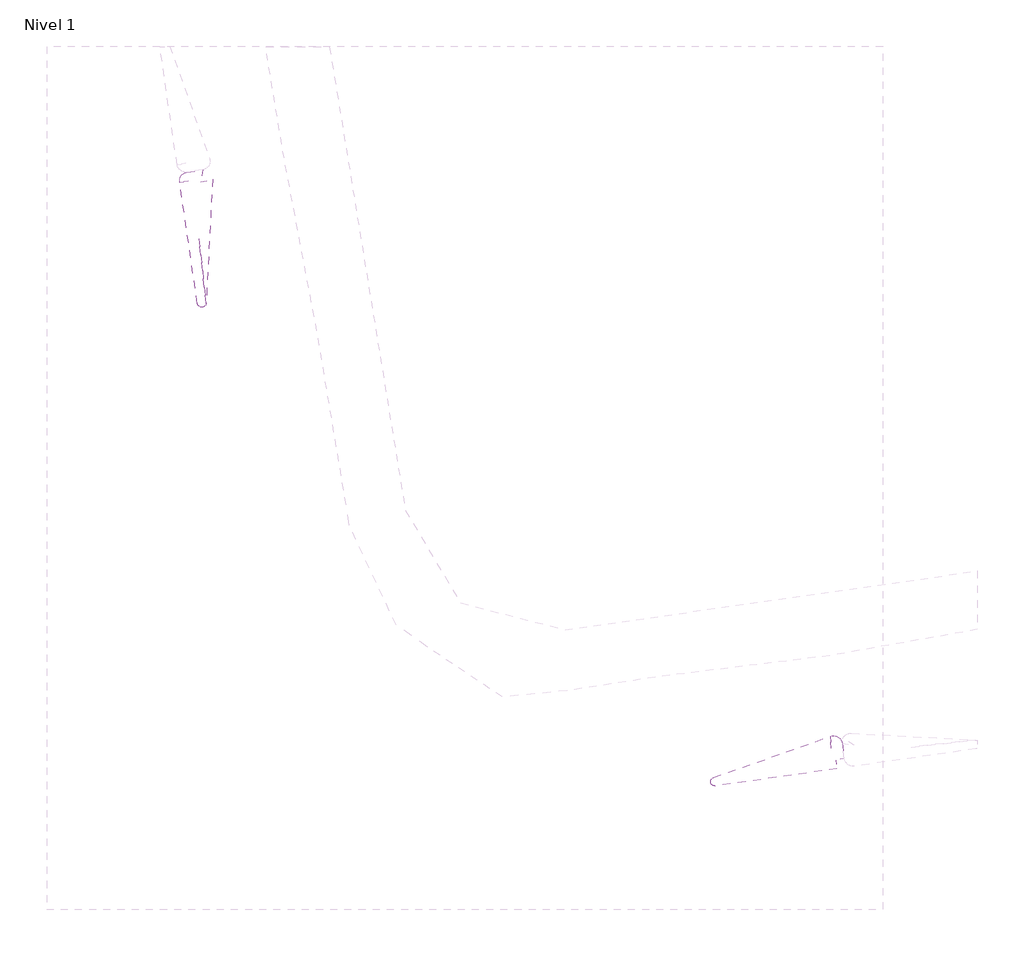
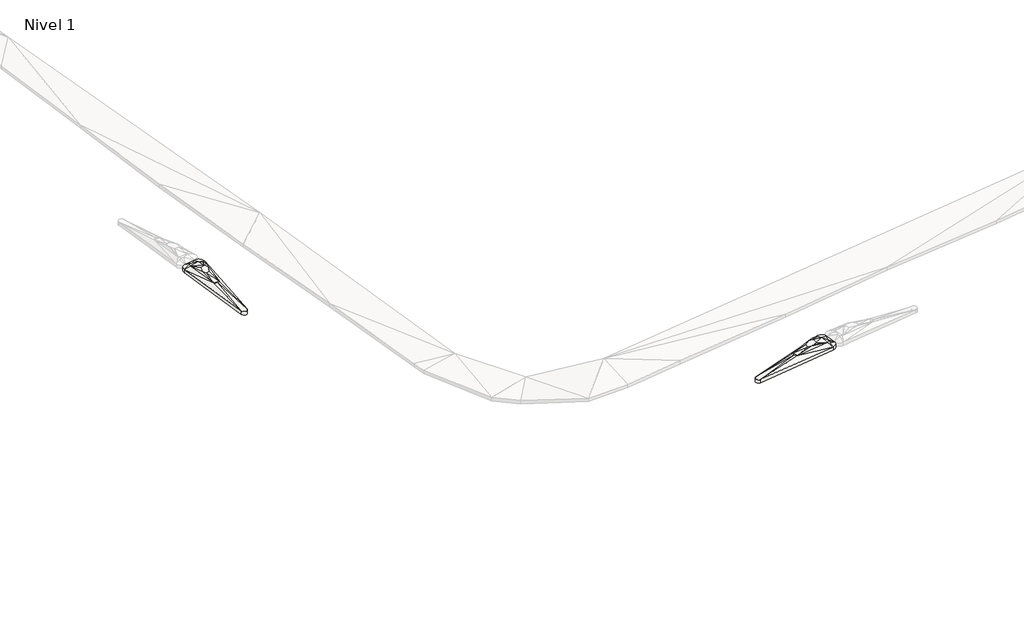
# One storey, part 21 of 45: 2 slabs.
"""IFC4 building model written with IfcOpenShell, lengths in millimetres."""

from ifc_helpers import new_model, si_unit, frame, origin, place, context, project, spatial, polyline, circle_curve, element, save
from ifc_brep_helpers import plane_surface, cylinder_surface, revolved_surface, spline_surface, advanced_brep

model = new_model("IFC4")

# Units and contexts
model_context = context("Model", 3, world=origin())
ifc_project = project(units=[si_unit("LENGTHUNIT", "METRE", prefix="MILLI")], contexts=[model_context])

# Site, building, storey
site = spatial("IfcSite", under=ifc_project)
building = spatial("IfcBuilding", under=site)
storey = spatial("IfcBuildingStorey", under=building, Name="Nivel 1", Elevation=0.0)

# Slabs
placement = place(None, origin())
element("IfcSlab", 1, ObjectType="Lippia", at=placement, inside=storey, context=model_context, shape_type="AdvancedBrep", body=[
    advanced_brep(
    [(-261247.3671553, 33291.5701287, 4450.0), (-261247.3671553, 33291.5701287, 4750.0), (-261117.9069936, 32384.1644603, 4750.0), (-261117.9069936, 32384.1644603, 4450.0), (-261934.0359202, 33657.238469, 4450.0), (-261934.0359202, 33657.238469, 4750.0), (-268554.1535741, 31323.0287121, 4450.0), (-268554.1535741, 31323.0287121, 4750.0), (-261540.8519489, 31822.0334302, 4450.0), (-261540.8519489, 31822.0334302, 4750.0), (-268466.7473479, 30837.303193, 4750.0), (-268466.7473479, 30837.303193, 4450.0), (-263079.018097, 32858.6950299, 5250.0), (-263527.0127741, 32491.1364792, 5250.0), (-263565.5222031, 32160.3525545, 5250.0), (-263239.4154063, 32077.1570952, 5250.0), (-262999.3380136, 32210.3883568, 5250.0), (-262722.0173645, 32352.3785143, 5250.0), (-262705.7219543, 32793.4534307, 5250.0), (-261861.3863296, 32974.4279491, 5050.0), (-261624.7744499, 32528.0353979, 5050.0), (-263079.018097, 32858.6950299, 4950.0), (-262705.7219543, 32793.4534307, 4950.0), (-262722.0173645, 32352.3785143, 4950.0), (-262999.3380136, 32210.3883568, 4950.0), (-263239.4154063, 32077.1570952, 4950.0), (-263565.5222031, 32160.3525545, 4950.0), (-263527.0127741, 32491.1364792, 4950.0), (-261861.3863296, 32974.4279491, 4750.0), (-261624.7744499, 32528.0353979, 4750.0), (-264779.8842914, 32260.8442172, 5050.0), (-264651.3818626, 31781.9109511, 5050.0), (-264779.8842914, 32260.8442172, 4750.0), (-264651.3818626, 31781.9109511, 4750.0), (-261812.4005331, 32163.1700938, 5050.0), (-261613.3415464, 32316.7507822, 5050.0), (-261812.4005331, 32163.1700938, 4750.0), (-261613.3415464, 32316.7507822, 4750.0), (-262133.9643702, 33210.764387, 5050.0), (-262133.9643702, 33210.764387, 4750.0), (-262494.6297338, 33202.150695, 5050.0), (-262494.6297338, 33202.150695, 4750.0), (-264926.1303221, 31964.9058524, 5050.0), (-264926.1303221, 31964.9058524, 4750.0)],
    [
        (0, 1),
        (1, 2),
        (2, 3),
        (3, 0),
        (4, 5),
        (5, 1, circle_curve(frame((-261738.3645222, 33197.1159804, 4750.0), z_axis=(0.0, 0.0, -1.0), x_axis=(-0.9157030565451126, 0.4018555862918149, 0.0)), 500.0000005)),
        (0, 4, circle_curve(frame((-261738.3645222, 33197.1159804, 4450.0), z_axis=(0.0, 0.0, 1.0), x_axis=(-0.9157030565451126, 0.4018555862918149, 0.0)), 500.0000005)),
        (6, 7),
        (7, 5),
        (4, 6),
        (8, 9),
        (9, 10),
        (10, 11),
        (11, 8),
        (2, 9, circle_curve(frame((-261613.3415464, 32316.7507822, 4750.0), z_axis=(0.0, 0.0, -1.0), x_axis=(-0.9157030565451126, 0.4018555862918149, 0.0)), 500.0000001)),
        (8, 3, circle_curve(frame((-261613.3415464, 32316.7507822, 4450.0), z_axis=(0.0, 0.0, 1.0), x_axis=(-0.9157030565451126, 0.4018555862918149, 0.0)), 500.0000001)),
        (12, 13),
        (13, 14),
        (14, 15),
        (15, 16),
        (16, 17),
        (17, 18),
        (18, 12),
        (5, 19),
        (19, 1),
        (1, 20),
        (20, 2),
        (21, 22),
        (22, 23),
        (23, 24),
        (24, 25),
        (25, 26),
        (26, 27),
        (27, 21),
        (0, 28),
        (28, 4),
        (3, 29),
        (29, 0),
        (13, 30),
        (30, 14),
        (14, 31),
        (31, 15),
        (26, 32),
        (32, 27),
        (25, 33),
        (33, 26),
        (30, 31),
        (12, 30),
        (33, 32),
        (32, 21),
        (34, 9),
        (9, 35),
        (35, 34),
        (16, 34),
        (34, 17),
        (36, 37),
        (37, 8),
        (8, 36),
        (23, 36),
        (36, 24),
        (2, 35),
        (35, 20),
        (20, 19),
        (19, 34),
        (37, 3),
        (36, 28),
        (28, 29),
        (29, 37),
        (19, 17),
        (19, 18),
        (5, 38),
        (38, 19),
        (23, 28),
        (22, 28),
        (28, 39),
        (39, 4),
        (40, 18),
        (18, 38),
        (38, 40),
        (40, 5),
        (5, 30),
        (30, 40),
        (41, 39),
        (39, 22),
        (22, 41),
        (41, 32),
        (32, 4),
        (4, 41),
        (34, 15),
        (31, 34),
        (31, 9),
        (36, 33),
        (25, 36),
        (8, 33),
        (40, 12),
        (21, 41),
        (42, 31),
        (30, 42),
        (43, 32),
        (33, 43),
        (10, 7, circle_curve(frame((-268470.9879552, 31087.2672239, 4750.0), z_axis=(0.0, 0.0, -1.0), x_axis=(-0.9157030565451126, 0.4018555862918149, 0.0)), 249.999999)),
        (6, 11, circle_curve(frame((-268470.9879552, 31087.2672239, 4450.0), z_axis=(0.0, 0.0, 1.0), x_axis=(-0.9157030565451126, 0.4018555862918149, 0.0)), 249.999999)),
        (31, 10),
        (42, 10),
        (42, 7),
        (30, 7),
        (11, 33),
        (11, 43),
        (6, 43),
        (6, 32),
    ],
    [
        plane_surface(frame((-261247.3671553, 33291.5701287, 4450.0), z_axis=(0.9899753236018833, 0.14124042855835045, 0.0), x_axis=(0.0, 0.0, 1.0))),
        cylinder_surface(frame((-261738.3645222, 33197.1159804, 4750.0), z_axis=(0.0, 0.0, -1.0), x_axis=(-0.9157030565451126, 0.4018555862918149, 0.0)), 500.0000005),
        plane_surface(frame((-268554.1535741, 31323.0287121, 4450.0), z_axis=(-0.3325284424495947, 0.9430932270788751, 0.0), x_axis=(0.0, 0.0, 1.0))),
        plane_surface(frame((-261540.8519489, 31822.0334302, 4450.0), z_axis=(0.14076523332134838, -0.990043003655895, 0.0), x_axis=(0.0, 0.0, 1.0))),
        cylinder_surface(frame((-261613.3415464, 32316.7507822, 4750.0), z_axis=(0.0, 0.0, -1.0), x_axis=(-0.9157030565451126, 0.4018555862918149, 0.0)), 500.0000001),
        plane_surface(frame((-263119.7208304, 32420.5087801, 5250.0), z_axis=(0.0, 0.0, 1.0), x_axis=(-0.77309607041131, -0.6342889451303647, 0.0))),
        spline_surface(2, 1, [[(-261247.3671553, 33291.5701287, 4750.0), (-261861.3863296, 32974.4279491, 5050.0)], [(-261292.49487370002, 33526.15581188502, 4750.0), (-261861.3863296, 32974.4279491, 5050.0)], [(-261503.34815946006, 33638.44047516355, 4750.0), (-261861.3863296, 32974.4279491, 5050.0)], [(-261714.20144527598, 33750.72513841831, 4750.0), (-261861.3863296, 32974.4279491, 5050.0)], [(-261934.0359202, 33657.238469, 4750.0), (-261861.3863296, 32974.4279491, 5050.0)]], [3, 2, 3], [2, 2], [0.0, 1.0, 2.0], [0.0, 1.0], weights=[[1.0, 1.0], [0.9023052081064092, 0.9023052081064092], [1.0, 1.0], [0.9023052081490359, 0.9023052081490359], [1.0, 1.0]]),
        plane_surface(frame((-261330.0161996, 32734.5899956, 4850.0), z_axis=(0.5235356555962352, 0.07469317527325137, 0.8487233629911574), x_axis=(-0.14124042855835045, 0.9899753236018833, 0.0))),
        plane_surface(frame((-263119.7208304, 32420.5087801, 4950.0), z_axis=(0.0, 0.0, -1.0), x_axis=(-0.77309607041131, -0.6342889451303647, 0.0))),
        spline_surface(1, 2, [[(-261247.3671553, 33291.5701287, 4450.0), (-261292.49487370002, 33526.15581188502, 4450.0), (-261503.34815946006, 33638.44047516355, 4450.0), (-261714.20144527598, 33750.72513841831, 4450.0), (-261934.0359202, 33657.238469, 4450.0)], [(-261861.3863296, 32974.4279491, 4750.0), (-261861.3863296, 32974.4279491, 4750.0), (-261861.3863296, 32974.4279491, 4750.0), (-261861.3863296, 32974.4279491, 4750.0), (-261861.3863296, 32974.4279491, 4750.0)]], [2, 2], [3, 2, 3], [0.0, 1.0], [0.0, 1.0, 2.0], weights=[[1.0, 0.9023052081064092, 1.0, 0.9023052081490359, 1.0], [1.0, 0.9023052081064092, 1.0, 0.9023052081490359, 1.0]]),
        plane_surface(frame((-261330.0161996, 32734.5899956, 4550.0), z_axis=(-0.5235356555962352, -0.07469317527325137, -0.8487233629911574), x_axis=(-0.14124042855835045, 0.9899753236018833, 0.0))),
        plane_surface(frame((-263957.4730895, 32304.1110836, 5183.3333333), z_axis=(-0.16096777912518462, 0.018739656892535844, 0.9867817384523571), x_axis=(0.11563768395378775, 0.9932914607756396, 0.0))),
        plane_surface(frame((-263818.7731573, 32006.4735336, 5183.3333333), z_axis=(-0.07424899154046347, -0.29103872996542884, 0.9538257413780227), x_axis=(-0.9689645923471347, 0.2471995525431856, 0.0))),
        plane_surface(frame((-263957.4730895, 32304.1110836, 4883.3333333), z_axis=(0.16096777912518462, -0.018739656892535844, -0.9867817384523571), x_axis=(0.11563768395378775, 0.9932914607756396, 0.0))),
        plane_surface(frame((-263818.7731573, 32006.4735336, 4883.3333333), z_axis=(0.07424899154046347, 0.29103872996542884, -0.9538257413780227), x_axis=(-0.9689645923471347, 0.2471995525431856, 0.0))),
        plane_surface(frame((-264332.2627857, 32067.7025743, 5116.6666667), z_axis=(-0.16593102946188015, -0.0445209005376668, 0.9851318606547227), x_axis=(0.9303274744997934, 0.3242358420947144, 0.1713531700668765))),
        plane_surface(frame((-263795.3050542, 32536.8919088, 5183.3333333), z_axis=(-0.19568748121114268, 0.2385115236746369, 0.9512195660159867), x_axis=(0.9716207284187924, 0.17859511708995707, 0.15510301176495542))),
        plane_surface(frame((-264332.2627857, 32067.7025743, 4816.6666667), z_axis=(0.16593102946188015, 0.0445209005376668, -0.9851318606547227), x_axis=(0.9303274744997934, 0.3242358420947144, 0.1713531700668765))),
        plane_surface(frame((-263795.3050542, 32536.8919088, 4883.3333333), z_axis=(0.19568748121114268, -0.2385115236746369, -0.9512195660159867), x_axis=(0.9716207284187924, 0.17859511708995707, 0.15510301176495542))),
        plane_surface(frame((-261655.5313428, 32100.6514354, 4950.0), z_axis=(0.3462797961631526, -0.4488201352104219, 0.8238026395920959), x_axis=(0.5130751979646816, -0.6445578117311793, -0.5668324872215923))),
        plane_surface(frame((-262511.2519704, 32241.9789883, 5183.3333333), z_axis=(0.1478914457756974, -0.2888464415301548, 0.9458836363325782), x_axis=(-0.8901112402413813, -0.4557433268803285, 0.0))),
        plane_surface(frame((-261655.5313428, 32100.6514354, 4650.0), z_axis=(-0.3462797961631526, 0.4488201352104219, -0.8238026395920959), x_axis=(0.5130751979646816, -0.6445578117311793, -0.5668324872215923))),
        plane_surface(frame((-262511.2519704, 32241.9789883, 4883.3333333), z_axis=(-0.1478914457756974, 0.2888464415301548, -0.9458836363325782), x_axis=(-0.8901112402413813, -0.4557433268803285, 0.0))),
        revolved_surface(polyline([(-261613.3415464, 32316.7507822, 5050.0), (-261540.8519489, 31822.0334302, 4750.0)]), (-261613.3415464, 32316.7507822, 5050.0), (0.0, 0.0, -1.0)),
        plane_surface(frame((-261727.9757148, 32495.5960558, 5050.0), z_axis=(0.0, 0.0, 1.0000000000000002), x_axis=(-0.05403233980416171, 0.9985391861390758, 0.0))),
        plane_surface(frame((-261452.0076633, 32409.6502135, 4950.0), z_axis=(0.5149907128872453, 0.027866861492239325, 0.856742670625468), x_axis=(0.8496632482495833, 0.11561350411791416, -0.5144957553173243))),
        revolved_surface(polyline([(-261117.9069936, 32384.1644603, 4450.0), (-261613.3415464, 32316.7507822, 4750.0)]), (-261613.3415464, 32316.7507822, 4750.0), (0.0, 0.0, -1.0)),
        plane_surface(frame((-261727.9757148, 32495.5960558, 4750.0), z_axis=(0.0, 0.0, -1.0000000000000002), x_axis=(-0.05403233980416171, 0.9985391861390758, 0.0))),
        plane_surface(frame((-261452.0076633, 32409.6502135, 4650.0), z_axis=(-0.5149907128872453, -0.027866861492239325, -0.856742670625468), x_axis=(0.8496632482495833, 0.11561350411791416, -0.5144957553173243))),
        plane_surface(frame((-262131.9347424, 32496.6588524, 5116.6666667), z_axis=(0.2173278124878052, 0.013122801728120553, 0.9760104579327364), x_axis=(-0.7964603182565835, -0.575667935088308, 0.18508751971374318))),
        plane_surface(frame((-262429.7085495, 32706.753298, 5183.3333333), z_axis=(0.23222689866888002, -0.008579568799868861, 0.9726238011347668), x_axis=(-0.9525753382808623, -0.2041745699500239, 0.22563902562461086))),
        plane_surface(frame((-261976.4622067, 33280.8102684, 4950.0), z_axis=(0.3533680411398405, 0.40755614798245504, 0.8420386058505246), x_axis=(-0.09695163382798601, 0.9112177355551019, -0.40035311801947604))),
        plane_surface(frame((-261577.8426449, 32931.3444919, 4950.0), z_axis=(0.35184714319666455, 0.18649776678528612, 0.9172906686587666), x_axis=(0.4179450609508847, 0.845546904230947, -0.33222335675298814))),
        plane_surface(frame((-262131.9347424, 32496.6588524, 4816.6666667), z_axis=(-0.2173278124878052, -0.013122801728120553, -0.9760104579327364), x_axis=(-0.7964603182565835, -0.575667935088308, 0.18508751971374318))),
        plane_surface(frame((-262429.7085495, 32706.753298, 4883.3333333), z_axis=(-0.23222689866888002, 0.008579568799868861, -0.9726238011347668), x_axis=(-0.9525753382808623, -0.2041745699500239, 0.22563902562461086))),
        plane_surface(frame((-261976.4622067, 33280.8102684, 4650.0), z_axis=(-0.3533680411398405, -0.40755614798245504, -0.8420386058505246), x_axis=(-0.09695163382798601, 0.9112177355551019, -0.40035311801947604))),
        plane_surface(frame((-261577.8426449, 32931.3444919, 4650.0), z_axis=(-0.35184714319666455, -0.18649776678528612, -0.9172906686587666), x_axis=(0.4179450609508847, 0.845546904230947, -0.33222335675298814))),
        plane_surface(frame((-262444.7720194, 33068.7895042, 5116.6666667), z_axis=(-0.010602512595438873, 0.4439396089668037, 0.895993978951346), x_axis=(-0.420845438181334, -0.8148020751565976, 0.3987313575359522))),
        plane_surface(frame((-263069.5166485, 33040.0777937, 4950.0), z_axis=(-0.31334121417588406, 0.7607133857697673, 0.568447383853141), x_axis=(0.716961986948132, 0.5820268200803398, -0.3836799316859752))),
        plane_surface(frame((-262444.7720194, 33068.7895042, 4816.6666667), z_axis=(0.010602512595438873, -0.4439396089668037, -0.895993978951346), x_axis=(-0.420845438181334, -0.8148020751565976, 0.3987313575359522))),
        plane_surface(frame((-263069.5166485, 33040.0777937, 4650.0), z_axis=(0.31334121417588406, -0.7607133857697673, -0.568447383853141), x_axis=(0.716961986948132, 0.5820268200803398, -0.3836799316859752))),
        plane_surface(frame((-262233.6908847, 32992.8819223, 5116.6666667), z_axis=(0.18241098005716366, 0.21038324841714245, 0.9604504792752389), x_axis=(-0.7773044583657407, -0.5673342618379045, 0.2719000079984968))),
        plane_surface(frame((-262233.6908847, 32992.8819223, 4816.6666667), z_axis=(-0.18241098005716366, -0.21038324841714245, -0.9604504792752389), x_axis=(-0.7773044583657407, -0.5673342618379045, 0.2719000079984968))),
        plane_surface(frame((-263234.3992673, 32007.4127134, 5116.6666667), z_axis=(0.11792181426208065, -0.8780847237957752, 0.46374741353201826), x_axis=(-0.9885613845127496, -0.05958531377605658, 0.1385495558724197))),
        plane_surface(frame((-262683.7179843, 32150.2385153, 5183.3333333), z_axis=(0.14957375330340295, -0.26952590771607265, 0.9513061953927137), x_axis=(-0.9853411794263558, 0.039198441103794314, 0.16603084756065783))),
        plane_surface(frame((-262668.2114482, 31922.3714917, 4950.0), z_axis=(0.08324882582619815, -0.6198982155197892, 0.7802536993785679), x_axis=(0.9952991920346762, 0.012838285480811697, -0.09599321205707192))),
        plane_surface(frame((-263234.3992673, 32007.4127134, 4816.6666667), z_axis=(-0.11792181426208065, 0.8780847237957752, -0.46374741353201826), x_axis=(-0.9885613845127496, -0.05958531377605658, 0.1385495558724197))),
        plane_surface(frame((-262683.7179843, 32150.2385153, 4883.3333333), z_axis=(-0.14957375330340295, 0.26952590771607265, -0.9513061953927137), x_axis=(-0.9853411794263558, 0.039198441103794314, 0.16603084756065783))),
        plane_surface(frame((-262668.2114482, 31922.3714917, 4650.0), z_axis=(-0.08324882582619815, 0.6198982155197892, -0.7802536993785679), x_axis=(0.9952991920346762, 0.012838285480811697, -0.09599321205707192))),
        plane_surface(frame((-262759.7899283, 32951.4330519, 5183.3333333), z_axis=(0.07138409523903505, 0.4084419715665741, 0.9099887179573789), x_axis=(0.9850686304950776, -0.17216211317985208, 0.0))),
        plane_surface(frame((-263451.177374, 32773.8966474, 5116.6666667), z_axis=(-0.34402251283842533, 0.8351998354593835, 0.4290568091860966), x_axis=(0.9376649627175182, 0.32958721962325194, 0.11025734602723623))),
        plane_surface(frame((-262759.7899283, 32951.4330519, 4883.3333333), z_axis=(-0.07138409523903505, -0.4084419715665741, -0.9099887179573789), x_axis=(0.9850686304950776, -0.17216211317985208, 0.0))),
        plane_surface(frame((-263451.177374, 32773.8966474, 4816.6666667), z_axis=(0.34402251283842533, -0.8351998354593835, -0.4290568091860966), x_axis=(0.9376649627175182, 0.32958721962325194, 0.11025734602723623))),
        plane_surface(frame((-264785.7988253, 32002.5536736, 5050.0), z_axis=(0.0, 0.0, 1.0000000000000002), x_axis=(0.8322889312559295, -0.5543420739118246, 0.0))),
        plane_surface(frame((-262187.5433414, 33356.7178503, 4950.0), z_axis=(-0.013417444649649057, 0.5618041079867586, 0.8271614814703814), x_axis=(0.3483949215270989, 0.7780248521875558, -0.5227794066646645))),
        plane_surface(frame((-264785.7988253, 32002.5536736, 4750.0), z_axis=(0.0, 0.0, -1.0000000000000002), x_axis=(0.8322889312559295, -0.5543420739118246, 0.0))),
        plane_surface(frame((-262187.5433414, 33356.7178503, 4650.0), z_axis=(0.013417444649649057, -0.5618041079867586, -0.8271614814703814), x_axis=(0.3483949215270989, 0.7780248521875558, -0.5227794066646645))),
        cylinder_surface(frame((-268470.9879552, 31087.2672239, 4750.0), z_axis=(0.0, 0.0, -1.0), x_axis=(-0.9157030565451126, 0.4018555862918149, 0.0)), 249.999999),
        plane_surface(frame((-264886.3270531, 31480.4158581, 4850.0), z_axis=(0.08471218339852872, -0.59580553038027, 0.7986486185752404), x_axis=(0.990043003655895, 0.14076523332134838, 0.0))),
        plane_surface(frame((-266014.7531775, 31528.0399989, 4950.0), z_axis=(-0.057017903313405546, -0.08560665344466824, 0.9946961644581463), x_axis=(0.9678776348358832, 0.2396270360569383, 0.07610366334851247))),
        spline_surface(2, 1, [[(-268554.1535741, 31323.0287121, 4750.0), (-264926.1303221, 31964.9058524, 5050.0)], [(-268754.6985211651, 31252.285840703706, 4750.0), (-264926.1303221, 31964.9058524, 5050.0)], [(-268717.0359369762, 31042.990930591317, 4750.0), (-264926.1303221, 31964.9058524, 5050.0)], [(-268679.3733527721, 30833.696020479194, 4750.0), (-264926.1303221, 31964.9058524, 5050.0)], [(-268466.7473479, 30837.303193, 4750.0), (-264926.1303221, 31964.9058524, 5050.0)]], [3, 2, 3], [2, 2], [0.0, 1.0, 2.0], [0.0, 1.0], weights=[[1.0, 1.0], [0.7617038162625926, 0.7617038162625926], [1.0, 1.0], [0.7617038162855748, 0.7617038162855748], [1.0, 1.0]]),
        plane_surface(frame((-266086.7227292, 31849.5929273, 4950.0), z_axis=(-0.09015262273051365, 0.044551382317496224, 0.994930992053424), x_axis=(0.44303267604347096, 0.8965054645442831, 0.0))),
        plane_surface(frame((-265089.3579286, 32413.7037994, 4850.0), z_axis=(-0.20922078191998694, 0.5933769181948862, 0.7772583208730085), x_axis=(0.893756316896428, 0.43854626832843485, -0.09421685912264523))),
        plane_surface(frame((-264886.3270531, 31480.4158581, 4550.0), z_axis=(-0.08471218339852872, 0.59580553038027, -0.7986486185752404), x_axis=(0.990043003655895, 0.14076523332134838, 0.0))),
        plane_surface(frame((-266014.7531775, 31528.0399989, 4650.0), z_axis=(0.057017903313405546, 0.08560665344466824, -0.9946961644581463), x_axis=(0.9678776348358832, 0.2396270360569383, 0.07610366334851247))),
        spline_surface(1, 2, [[(-268554.1535741, 31323.0287121, 4450.0), (-268754.6985211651, 31252.285840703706, 4450.0), (-268717.0359369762, 31042.990930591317, 4450.0), (-268679.3733527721, 30833.696020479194, 4450.0), (-268466.7473479, 30837.303193, 4450.0)], [(-264926.1303221, 31964.9058524, 4750.0), (-264926.1303221, 31964.9058524, 4750.0), (-264926.1303221, 31964.9058524, 4750.0), (-264926.1303221, 31964.9058524, 4750.0), (-264926.1303221, 31964.9058524, 4750.0)]], [2, 2], [3, 2, 3], [0.0, 1.0], [0.0, 1.0, 2.0], weights=[[1.0, 0.7617038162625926, 1.0, 0.7617038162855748, 1.0], [1.0, 0.7617038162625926, 1.0, 0.7617038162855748, 1.0]]),
        plane_surface(frame((-266086.7227292, 31849.5929273, 4650.0), z_axis=(0.09015262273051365, -0.044551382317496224, -0.994930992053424), x_axis=(0.44303267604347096, 0.8965054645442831, 0.0))),
        plane_surface(frame((-265089.3579286, 32413.7037994, 4550.0), z_axis=(0.20922078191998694, -0.5933769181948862, -0.7772583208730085), x_axis=(0.893756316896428, 0.43854626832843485, -0.09421685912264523))),
    ],
    [
        (0, [[1, 2, 3, 4]]),
        (1, [[5, 6, -1, 7]]),
        (2, [[8, 9, -5, 10]]),
        (3, [[11, 12, 13, 14]]),
        (4, [[-3, 15, -11, 16]]),
        (5, [[17, 18, 19, 20, 21, 22, 23]]),
        (6, [[-6, 24, 25]]),
        (7, [[-2, 26, 27]]),
        (8, [[28, 29, 30, 31, 32, 33, 34]]),
        (9, [[35, 36, -7]]),
        (10, [[37, 38, -4]]),
        (11, [[-18, 39, 40]]),
        (12, [[-19, 41, 42]]),
        (13, [[43, 44, -33]]),
        (14, [[45, 46, -32]]),
        (15, [[-41, -40, 47]]),
        (16, [[-39, -17, 48]]),
        (17, [[49, -43, -46]]),
        (18, [[50, -34, -44]]),
        (19, [[51, 52, 53]]),
        (20, [[-21, 54, 55]]),
        (21, [[56, 57, 58]]),
        (22, [[59, 60, -30]]),
        (23, [[-52, -15, 61]]),
        (24, [[62, 63, 64, -53]]),
        (25, [[-61, -27, -62]]),
        (26, [[65, -16, -57]]),
        (27, [[-56, 66, 67, 68]]),
        (28, [[-68, -37, -65]]),
        (29, [[69, -55, -64]]),
        (30, [[70, -22, -69]]),
        (31, [[-24, 71, 72]]),
        (32, [[-26, -25, -63]]),
        (33, [[-66, -59, 73]]),
        (34, [[-73, -29, 74]]),
        (35, [[75, 76, -36]]),
        (36, [[-67, -35, -38]]),
        (37, [[77, 78, 79]]),
        (38, [[80, 81, 82]]),
        (39, [[83, 84, 85]]),
        (40, [[86, 87, 88]]),
        (41, [[-78, -70, -72]]),
        (42, [[-75, -74, -84]]),
        (43, [[89, -42, 90]]),
        (44, [[-54, -20, -89]]),
        (45, [[91, -51, -90]]),
        (46, [[92, -45, 93]]),
        (47, [[-93, -31, -60]]),
        (48, [[-92, -58, 94]]),
        (49, [[-23, -77, 95]]),
        (50, [[-48, -95, -82]]),
        (51, [[96, -85, -28]]),
        (52, [[-86, -96, -50]]),
        (53, [[97, -47, 98]]),
        (54, [[-71, -80, -79]]),
        (55, [[99, -49, 100]]),
        (56, [[-83, -88, -76]]),
        (57, [[-13, 101, -8, 102]]),
        (58, [[-12, -91, 103]]),
        (59, [[-103, -97, 104]]),
        (60, [[-104, 105, -101]]),
        (61, [[-98, 106, -105]]),
        (62, [[-81, -9, -106]]),
        (63, [[107, -94, -14]]),
        (64, [[108, -100, -107]]),
        (65, [[-102, 109, -108]]),
        (66, [[-109, 110, -99]]),
        (67, [[-110, -10, -87]]),
    ],
),
])
element("IfcSlab", 2, ObjectType="Lippia", at=placement, inside=storey, context=model_context, shape_type="AdvancedBrep", body=[
    advanced_brep(
    [(-298484.514582, 65729.692568, 4450.0), (-298484.514582, 65729.692568, 4750.0), (-297600.6378477, 65859.3472698, 4750.0), (-297600.6378477, 65859.3472698, 4450.0), (-297028.824812, 65337.1672196, 4750.0), (-297028.824812, 65337.1672196, 4450.0), (-297394.1826156, 58284.8522372, 4750.0), (-297394.1826156, 58284.8522372, 4450.0), (-297891.3859296, 58262.7579447, 4450.0), (-297891.3859296, 58262.7579447, 4750.0), (-298903.7216224, 65164.7685132, 4750.0), (-298903.7216224, 65164.7685132, 4450.0), (-297710.217667, 65171.9231312, 5050.0), (-298200.8340675, 65271.2837355, 5050.0), (-297710.217667, 65171.9231312, 4750.0), (-298200.8340675, 65271.2837355, 4750.0), (-297699.1270031, 63449.6925624, 5250.0), (-297586.3702931, 63716.5924576, 5250.0), (-297473.613583, 63983.4923529, 5250.0), (-297641.9815504, 64322.990076, 5250.0), (-298060.3033774, 64159.1823183, 5250.0), (-298117.9193263, 63876.1584475, 5250.0), (-298165.5030167, 63642.4155255, 5250.0), (-298002.2584822, 63305.7729607, 5250.0), (-297699.1270031, 63449.6925624, 4950.0), (-298002.2584822, 63305.7729607, 4950.0), (-298165.5030167, 63642.4155255, 4950.0), (-298117.9193263, 63876.1584475, 4950.0), (-298060.3033774, 64159.1823183, 4950.0), (-297641.9815504, 64322.990076, 4950.0), (-297473.613583, 63983.4923529, 4950.0), (-297586.3702931, 63716.5924576, 4950.0), (-298497.2959252, 64986.6909038, 5050.0), (-298423.5761845, 65206.6060185, 5050.0), (-298497.2959252, 64986.6909038, 4750.0), (-298423.5761845, 65206.6060185, 4750.0), (-297402.7549846, 64978.1076136, 5050.0), (-297402.7549846, 64978.1076136, 4750.0), (-297307.7732747, 64627.2853926, 5050.0), (-297562.0244391, 62169.9886029, 5050.0), (-297562.0244391, 62169.9886029, 4750.0), (-297307.7732747, 64627.2853926, 4750.0), (-298057.7369636, 62157.3600951, 5050.0), (-298057.7369636, 62157.3600951, 4750.0), (-297804.3195331, 61945.8000559, 5050.0), (-297804.3195331, 61945.8000559, 4750.0)],
    [
        (0, 1),
        (1, 2),
        (2, 3),
        (3, 0),
        (2, 4, circle_curve(frame((-297528.0695988, 65364.6379691, 4750.0), z_axis=(0.0, 0.0, -1.0), x_axis=(0.9726726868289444, 0.23218062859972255, 0.0)), 499.9999992)),
        (4, 5),
        (5, 3, circle_curve(frame((-297528.0695988, 65364.6379691, 4450.0), z_axis=(0.0, 0.0, 1.0), x_axis=(0.9726726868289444, 0.23218062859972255, 0.0)), 499.9999992)),
        (4, 6),
        (6, 7),
        (7, 5),
        (8, 9),
        (9, 10),
        (10, 11),
        (11, 8),
        (10, 1, circle_curve(frame((-298408.7451228, 65235.466922, 4750.0), z_axis=(0.0, 0.0, -1.0), x_axis=(0.9726726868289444, 0.23218062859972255, 0.0)), 500.0000001)),
        (0, 11, circle_curve(frame((-298408.7451228, 65235.466922, 4450.0), z_axis=(0.0, 0.0, 1.0), x_axis=(0.9726726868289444, 0.23218062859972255, 0.0)), 500.0000001)),
        (2, 12),
        (12, 4),
        (1, 13),
        (13, 2),
        (5, 14),
        (14, 3),
        (3, 15),
        (15, 0),
        (16, 17),
        (17, 18),
        (18, 19),
        (19, 20),
        (20, 21),
        (21, 22),
        (22, 23),
        (23, 16),
        (24, 25),
        (25, 26),
        (26, 27),
        (27, 28),
        (28, 29),
        (29, 30),
        (30, 31),
        (31, 24),
        (20, 32),
        (32, 22),
        (10, 32),
        (32, 33),
        (33, 10),
        (19, 32),
        (26, 34),
        (34, 28),
        (11, 35),
        (35, 34),
        (34, 11),
        (34, 29),
        (32, 12),
        (12, 13),
        (13, 33),
        (19, 12),
        (12, 36),
        (36, 4),
        (35, 15),
        (15, 14),
        (14, 34),
        (14, 29),
        (5, 37),
        (37, 14),
        (4, 38),
        (38, 39),
        (39, 4),
        (19, 38),
        (38, 36),
        (36, 19),
        (5, 40),
        (40, 41),
        (41, 5),
        (29, 37),
        (37, 41),
        (41, 29),
        (22, 42),
        (42, 23),
        (23, 39),
        (39, 16),
        (39, 18),
        (25, 43),
        (43, 26),
        (24, 40),
        (40, 25),
        (30, 40),
        (42, 39),
        (40, 43),
        (1, 33),
        (35, 0),
        (10, 42),
        (42, 32),
        (42, 44),
        (44, 39),
        (18, 38),
        (34, 43),
        (43, 11),
        (40, 45),
        (45, 43),
        (41, 30),
        (6, 9, circle_curve(frame((-297643.852138, 58297.7868138, 4750.0), z_axis=(0.0, 0.0, -1.0), x_axis=(0.9726726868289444, 0.23218062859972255, 0.0)), 249.9999994)),
        (8, 7, circle_curve(frame((-297643.852138, 58297.7868138, 4450.0), z_axis=(0.0, 0.0, 1.0), x_axis=(0.9726726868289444, 0.23218062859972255, 0.0)), 249.9999994)),
        (9, 42),
        (9, 44),
        (6, 44),
        (6, 39),
        (43, 8),
        (45, 8),
        (45, 7),
        (40, 7),
    ],
    [
        plane_surface(frame((-298484.514582, 65729.692568, 4450.0), z_axis=(-0.1451354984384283, 0.989411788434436, 0.0), x_axis=(0.0, 0.0, 1.0))),
        cylinder_surface(frame((-297528.0695988, 65364.6379691, 4750.0), z_axis=(0.0, 0.0, -1.0), x_axis=(0.9726726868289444, 0.23218062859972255, 0.0)), 499.9999992),
        plane_surface(frame((-297028.824812, 65337.1672196, 4450.0), z_axis=(0.9986607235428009, -0.05173740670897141, 0.0), x_axis=(0.0, 0.0, 1.0))),
        plane_surface(frame((-297891.3859296, 58262.7579447, 4450.0), z_axis=(-0.9894140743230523, -0.14511991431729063, 0.0), x_axis=(0.0, 0.0, 1.0))),
        cylinder_surface(frame((-298408.7451228, 65235.466922, 4750.0), z_axis=(0.0, 0.0, -1.0), x_axis=(0.9726726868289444, 0.23218062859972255, 0.0)), 500.0000001),
        spline_surface(2, 1, [[(-297028.824812, 65337.1672196, 4750.0), (-297710.217667, 65171.9231312, 5050.0)], [(-297015.79621580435, 65573.94484119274, 4750.0), (-297710.217667, 65171.9231312, 5050.0)], [(-297190.9043051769, 65733.8527629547, 4750.0), (-297710.217667, 65171.9231312, 5050.0)], [(-297366.0123945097, 65893.7606847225, 4750.0), (-297710.217667, 65171.9231312, 5050.0)], [(-297600.6373479, 65859.3438625, 4750.0), (-297710.217667, 65171.9231312, 5050.0)]], [3, 2, 3], [2, 2], [0.0, 1.0, 2.0], [0.0, 1.0], weights=[[1.0, 1.0], [0.9035324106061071, 0.9035324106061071], [1.0, 1.0], [0.9035324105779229, 0.9035324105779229], [1.0, 1.0]]),
        plane_surface(frame((-298095.3288324, 65620.1078578, 4850.0), z_axis=(-0.07525430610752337, 0.5130205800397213, 0.8550711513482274), x_axis=(-0.9894117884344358, -0.14513549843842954, 0.0))),
        spline_surface(1, 2, [[(-297028.824812, 65337.1672196, 4450.0), (-297015.79621580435, 65573.94484119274, 4450.0), (-297190.9043051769, 65733.8527629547, 4450.0), (-297366.0123945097, 65893.7606847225, 4450.0), (-297600.6373479, 65859.3438625, 4450.0)], [(-297710.217667, 65171.9231312, 4750.0), (-297710.217667, 65171.9231312, 4750.0), (-297710.217667, 65171.9231312, 4750.0), (-297710.217667, 65171.9231312, 4750.0), (-297710.217667, 65171.9231312, 4750.0)]], [2, 2], [3, 2, 3], [0.0, 1.0], [0.0, 1.0, 2.0], weights=[[1.0, 0.9035324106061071, 1.0, 0.9035324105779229, 1.0], [1.0, 0.9035324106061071, 1.0, 0.9035324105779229, 1.0]]),
        plane_surface(frame((-298095.3288324, 65620.1078578, 4550.0), z_axis=(0.07525430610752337, -0.5130205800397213, -0.8550711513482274), x_axis=(-0.9894117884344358, -0.14513549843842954, 0.0))),
        plane_surface(frame((-297840.4645021, 63810.590966, 5250.0), z_axis=(0.0, 0.0, 1.0), x_axis=(0.38916430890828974, 0.9211683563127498, 0.0))),
        plane_surface(frame((-297840.4645021, 63810.590966, 4950.0), z_axis=(0.0, 0.0, -1.0), x_axis=(0.38916430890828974, 0.9211683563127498, 0.0))),
        plane_surface(frame((-298241.0341064, 64262.7629159, 5183.3333333), z_axis=(-0.31302458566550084, 0.0637232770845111, 0.9476048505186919), x_axis=(0.19948127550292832, 0.9799016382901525, 0.0))),
        plane_surface(frame((-298608.1979107, 65119.3551452, 4950.0), z_axis=(-0.5325128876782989, 0.17850847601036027, 0.8273842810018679), x_axis=(0.7587886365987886, -0.3324673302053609, 0.5600939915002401))),
        plane_surface(frame((-298066.526951, 64489.6210993, 5183.3333333), z_axis=(-0.0766708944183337, 0.1957972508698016, 0.9776425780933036), x_axis=(-0.7768970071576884, 0.6028510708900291, -0.18166349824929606))),
        plane_surface(frame((-298241.0341064, 64262.7629159, 4883.3333333), z_axis=(0.31302458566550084, -0.0637232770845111, -0.9476048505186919), x_axis=(0.19948127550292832, 0.9799016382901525, 0.0))),
        plane_surface(frame((-298608.1979107, 65119.3551452, 4650.0), z_axis=(0.5325128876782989, -0.17850847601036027, -0.8273842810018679), x_axis=(0.7587886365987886, -0.3324673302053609, 0.5600939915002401))),
        plane_surface(frame((-298066.526951, 64489.6210993, 4883.3333333), z_axis=(0.0766708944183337, -0.1957972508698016, -0.9776425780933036), x_axis=(-0.7768970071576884, 0.6028510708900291, -0.18166349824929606))),
        plane_surface(frame((-298207.9809611, 65159.1259473, 5050.0), z_axis=(0.0, 0.0, 1.0), x_axis=(0.9734068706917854, 0.22908309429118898, 0.0))),
        plane_surface(frame((-297949.8317142, 64827.2013703, 5116.6666667), z_axis=(-0.05294170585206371, 0.22495688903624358, 0.9729293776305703), x_axis=(-0.07799847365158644, 0.9703876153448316, -0.2286134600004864))),
        plane_surface(frame((-297380.5991546, 65162.3993215, 4950.0), z_axis=(0.2730953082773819, 0.4332295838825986, 0.8589127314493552), x_axis=(-0.8934797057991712, -0.2166771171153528, 0.3933764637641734))),
        plane_surface(frame((-297837.2298607, 65434.1847122, 4950.0), z_axis=(0.07861700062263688, 0.3881899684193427, 0.9182199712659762), x_axis=(-0.6727007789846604, -0.6591024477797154, 0.3362404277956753))),
        plane_surface(frame((-298207.9809611, 65159.1259473, 4750.0), z_axis=(0.0, 0.0, -1.0), x_axis=(0.9734068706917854, 0.22908309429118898, 0.0))),
        plane_surface(frame((-297949.8317142, 64827.2013703, 4816.6666667), z_axis=(0.05294170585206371, -0.22495688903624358, -0.9729293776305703), x_axis=(-0.07799847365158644, 0.9703876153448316, -0.2286134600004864))),
        plane_surface(frame((-297380.5991546, 65162.3993215, 4650.0), z_axis=(-0.2730953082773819, -0.4332295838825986, -0.8589127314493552), x_axis=(-0.8934797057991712, -0.2166771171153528, 0.3933764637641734))),
        plane_surface(frame((-297837.2298607, 65434.1847122, 4650.0), z_axis=(-0.07861700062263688, -0.3881899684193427, -0.9182199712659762), x_axis=(-0.6727007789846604, -0.6591024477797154, 0.3362404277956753))),
        plane_surface(frame((-297299.540842, 64044.8137384, 4950.0), z_axis=(0.8220160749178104, -0.08505221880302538, 0.5630769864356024), x_axis=(-0.3403470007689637, -0.8661318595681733, 0.36603213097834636))),
        plane_surface(frame((-297450.8366032, 64642.7943607, 5116.6666667), z_axis=(0.42985217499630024, 0.11637830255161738, 0.8953676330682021), x_axis=(0.6761820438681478, 0.6156610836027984, -0.4046470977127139))),
        plane_surface(frame((-297299.540842, 64044.8137384, 4650.0), z_axis=(-0.8220160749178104, 0.08505221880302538, -0.5630769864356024), x_axis=(-0.3403470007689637, -0.8661318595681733, 0.36603213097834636))),
        plane_surface(frame((-297450.8366032, 64642.7943607, 4816.6666667), z_axis=(-0.42985217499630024, -0.11637830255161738, -0.8953676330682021), x_axis=(0.6761820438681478, 0.6156610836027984, -0.4046470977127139))),
        plane_surface(frame((-298075.1661542, 63035.1828605, 5183.3333333), z_axis=(-0.3070033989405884, -0.14887192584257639, 0.9399925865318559), x_axis=(-0.43632522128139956, 0.8997890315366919, 0.0))),
        plane_surface(frame((-297754.4699748, 62975.1513754, 5183.3333333), z_axis=(0.06967147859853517, -0.1467459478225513, 0.9867175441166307), x_axis=(-0.9033558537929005, -0.42889182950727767, 0.0))),
        plane_surface(frame((-297578.2550084, 63201.0578394, 5183.3333333), z_axis=(0.28103132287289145, -0.11872678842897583, 0.9523262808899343), x_axis=(0.10526316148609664, -0.9825176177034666, -0.1535538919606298))),
        plane_surface(frame((-298075.1661542, 63035.1828605, 4883.3333333), z_axis=(0.3070033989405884, 0.14887192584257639, -0.9399925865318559), x_axis=(-0.43632522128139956, 0.8997890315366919, 0.0))),
        plane_surface(frame((-297754.4699748, 62975.1513754, 4883.3333333), z_axis=(-0.06967147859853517, 0.1467459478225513, -0.9867175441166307), x_axis=(-0.9033558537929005, -0.42889182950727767, 0.0))),
        plane_surface(frame((-297578.2550084, 63201.0578394, 4883.3333333), z_axis=(-0.28103132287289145, 0.11872678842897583, -0.9523262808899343), x_axis=(0.10526316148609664, -0.9825176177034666, -0.1535538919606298))),
        plane_surface(frame((-297874.0066283, 62544.3738863, 5116.6666667), z_axis=(0.004376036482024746, -0.17177453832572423, 0.9851265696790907), x_axis=(-0.0475386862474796, -0.9840579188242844, -0.17137702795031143))),
        plane_surface(frame((-297874.0066283, 62544.3738863, 4816.6666667), z_axis=(-0.004376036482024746, 0.17177453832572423, -0.9851265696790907), x_axis=(-0.0475386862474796, -0.9840579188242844, -0.17137702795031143))),
        plane_surface(frame((-298369.6416113, 65402.5274407, 4950.0), z_axis=(-0.13948357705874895, 0.4803643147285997, 0.8659067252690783), x_axis=(0.10054513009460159, -0.8630651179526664, 0.49498411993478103))),
        spline_surface(2, 1, [[(-298484.514582, 65729.692568, 4750.0), (-298423.5761845, 65206.6060185, 5050.0)], [(-298973.6988708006, 65654.6959964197, 4750.0), (-298423.5761845, 65206.6060185, 5050.0)], [(-298903.7216224, 65164.7685132, 4750.0), (-298423.5761845, 65206.6060185, 5050.0)]], [3, 3], [2, 2], [0.0, 1.0], [0.0, 1.0], weights=[[1.0, 1.0], [0.7107223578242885, 0.7107223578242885], [1.0, 1.0]]),
        plane_surface(frame((-298369.6416113, 65402.5274407, 4650.0), z_axis=(0.13948357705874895, -0.4803643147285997, -0.8659067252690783), x_axis=(0.10054513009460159, -0.8630651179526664, 0.49498411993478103))),
        spline_surface(1, 2, [[(-298484.514582, 65729.692568, 4450.0), (-298973.6988708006, 65654.6959964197, 4450.0), (-298903.7216224, 65164.7685132, 4450.0)], [(-298423.5761845, 65206.6060185, 4750.0), (-298423.5761845, 65206.6060185, 4750.0), (-298423.5761845, 65206.6060185, 4750.0)]], [2, 2], [3, 3], [0.0, 1.0], [0.0, 1.0], weights=[[1.0, 0.7107223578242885, 1.0], [1.0, 0.7107223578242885, 1.0]]),
        plane_surface(frame((-297584.984734, 64824.3402736, 5116.6666667), z_axis=(0.15010956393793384, 0.23812896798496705, 0.9595632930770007), x_axis=(0.3297220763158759, 0.9029378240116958, -0.27565674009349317))),
        plane_surface(frame((-297584.984734, 64824.3402736, 4816.6666667), z_axis=(-0.15010956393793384, -0.23812896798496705, -0.9595632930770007), x_axis=(0.3297220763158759, 0.9029378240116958, -0.27565674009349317))),
        plane_surface(frame((-298486.2515037, 64102.9398374, 4950.0), z_axis=(-0.6180231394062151, -0.09601479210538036, 0.7802746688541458), x_axis=(0.2695504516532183, -0.9582304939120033, 0.0955869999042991))),
        plane_surface(frame((-297808.0269786, 62091.0495847, 5050.0), z_axis=(0.0, 0.0, 1.0), x_axis=(-0.9996756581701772, -0.025467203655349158, 0.0))),
        plane_surface(frame((-297474.456136, 64311.2559405, 5183.3333333), z_axis=(0.3745176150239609, 0.18573547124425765, 0.9084266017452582), x_axis=(0.44429605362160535, -0.8958800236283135, 0.0))),
        plane_surface(frame((-297246.4510238, 64980.8534086, 4950.0), z_axis=(0.5315174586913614, 0.1439031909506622, 0.8347341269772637), x_axis=(-0.6243038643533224, -0.5994763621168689, 0.500872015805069))),
        plane_surface(frame((-298486.2515037, 64102.9398374, 4650.0), z_axis=(0.6180231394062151, 0.09601479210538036, -0.7802746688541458), x_axis=(0.2695504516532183, -0.9582304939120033, 0.0955869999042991))),
        plane_surface(frame((-297808.0269786, 62091.0495847, 4750.0), z_axis=(0.0, 0.0, -1.0), x_axis=(-0.9996756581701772, -0.025467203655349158, 0.0))),
        plane_surface(frame((-297474.456136, 64311.2559405, 4883.3333333), z_axis=(-0.3745176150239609, -0.18573547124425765, -0.9084266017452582), x_axis=(0.44429605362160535, -0.8958800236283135, 0.0))),
        plane_surface(frame((-297246.4510238, 64980.8534086, 4650.0), z_axis=(-0.5315174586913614, -0.1439031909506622, -0.8347341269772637), x_axis=(-0.6243038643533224, -0.5994763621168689, 0.500872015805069))),
        plane_surface(frame((-298240.1786352, 63595.4888415, 5116.6666667), z_axis=(-0.8445367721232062, -0.13120547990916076, 0.5191750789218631), x_axis=(-0.23716665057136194, 0.9608924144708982, -0.14296065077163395))),
        plane_surface(frame((-298240.1786352, 63595.4888415, 4816.6666667), z_axis=(0.8445367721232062, 0.13120547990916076, -0.5191750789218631), x_axis=(-0.23716665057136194, 0.9608924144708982, -0.14296065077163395))),
        plane_surface(frame((-297447.8037656, 63593.5887828, 5116.6666667), z_axis=(0.8919819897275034, -0.09229144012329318, 0.4425499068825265), x_axis=(-0.048400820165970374, -0.992808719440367, -0.1094906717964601))),
        plane_surface(frame((-297447.8037656, 63593.5887828, 4816.6666667), z_axis=(-0.8919819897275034, 0.09229144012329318, -0.4425499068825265), x_axis=(-0.048400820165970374, -0.992808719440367, -0.1094906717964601))),
        cylinder_surface(frame((-297643.852138, 58297.7868138, 4750.0), z_axis=(0.0, 0.0, -1.0), x_axis=(0.9726726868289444, 0.23218062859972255, 0.0)), 249.9999994),
        plane_surface(frame((-298284.2815052, 61861.628851, 4850.0), z_axis=(-0.5930843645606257, -0.0869892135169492, 0.8004272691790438), x_axis=(0.14511991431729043, -0.9894140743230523, 0.0))),
        plane_surface(frame((-297917.8141421, 60788.6393653, 4950.0), z_axis=(-0.06632631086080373, -0.07944904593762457, 0.9946299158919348), x_axis=(0.042548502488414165, -0.9961434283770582, -0.07673262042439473))),
        spline_surface(2, 1, [[(-297891.3859296, 58262.7579447, 4750.0), (-297804.3195331, 61945.8000559, 5050.0)], [(-297859.57357596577, 58037.95386974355, 4750.0), (-297804.3195331, 61945.8000559, 5050.0)], [(-297632.75359619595, 58048.03329125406, 4750.0), (-297804.3195331, 61945.8000559, 5050.0)], [(-297405.93361642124, 58058.11271285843, 4750.0), (-297804.3195331, 61945.8000559, 5050.0)], [(-297394.1869577, 58284.8524622, 4750.0), (-297804.3195331, 61945.8000559, 5050.0)]], [3, 2, 3], [2, 2], [0.0, 1.0, 2.0], [0.0, 1.0], weights=[[1.0, 1.0], [0.740277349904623, 0.740277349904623], [1.0, 1.0], [0.740277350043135, 0.740277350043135], [1.0, 1.0]]),
        plane_surface(frame((-297586.8421959, 60800.213632, 4950.0), z_axis=(0.06835198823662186, -0.07387242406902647, 0.9949225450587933), x_axis=(-0.7340003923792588, -0.6791490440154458, 0.0))),
        plane_surface(frame((-297328.3439556, 61930.6693532, 4850.0), z_axis=(0.6303719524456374, -0.03265754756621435, 0.775606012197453), x_axis=(-0.16529589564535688, -0.9818491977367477, 0.09300225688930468))),
        plane_surface(frame((-298284.2815052, 61861.628851, 4550.0), z_axis=(0.5930843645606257, 0.0869892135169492, -0.8004272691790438), x_axis=(0.14511991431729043, -0.9894140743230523, 0.0))),
        plane_surface(frame((-297917.8141421, 60788.6393653, 4650.0), z_axis=(0.06632631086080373, 0.07944904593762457, -0.9946299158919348), x_axis=(0.042548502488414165, -0.9961434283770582, -0.07673262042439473))),
        spline_surface(1, 2, [[(-297891.3859296, 58262.7579447, 4450.0), (-297859.57357596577, 58037.95386974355, 4450.0), (-297632.75359619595, 58048.03329125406, 4450.0), (-297405.93361642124, 58058.11271285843, 4450.0), (-297394.1869577, 58284.8524622, 4450.0)], [(-297804.3195331, 61945.8000559, 4750.0), (-297804.3195331, 61945.8000559, 4750.0), (-297804.3195331, 61945.8000559, 4750.0), (-297804.3195331, 61945.8000559, 4750.0), (-297804.3195331, 61945.8000559, 4750.0)]], [2, 2], [3, 2, 3], [0.0, 1.0], [0.0, 1.0, 2.0], weights=[[1.0, 0.740277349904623, 1.0, 0.740277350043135, 1.0], [1.0, 0.740277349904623, 1.0, 0.740277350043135, 1.0]]),
        plane_surface(frame((-297586.8421959, 60800.213632, 4650.0), z_axis=(-0.06835198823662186, 0.07387242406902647, -0.9949225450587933), x_axis=(-0.7340003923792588, -0.6791490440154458, 0.0))),
        plane_surface(frame((-297328.3439556, 61930.6693532, 4550.0), z_axis=(-0.6303719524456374, 0.03265754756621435, -0.775606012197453), x_axis=(-0.16529589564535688, -0.9818491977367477, 0.09300225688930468))),
    ],
    [
        (0, [[1, 2, 3, 4]]),
        (1, [[-3, 5, 6, 7]]),
        (2, [[-6, 8, 9, 10]]),
        (3, [[11, 12, 13, 14]]),
        (4, [[-13, 15, -1, 16]]),
        (5, [[-5, 17, 18]]),
        (6, [[-2, 19, 20]]),
        (7, [[21, 22, -7]]),
        (8, [[23, 24, -4]]),
        (9, [[25, 26, 27, 28, 29, 30, 31, 32]]),
        (10, [[33, 34, 35, 36, 37, 38, 39, 40]]),
        (11, [[-29, 41, 42, -30]]),
        (12, [[43, 44, 45]]),
        (13, [[46, -41, -28]]),
        (14, [[-35, 47, 48, -36]]),
        (15, [[49, 50, 51]]),
        (16, [[-37, -48, 52]]),
        (17, [[53, 54, 55, -44]]),
        (18, [[56, -53, -46]]),
        (19, [[-18, 57, 58]]),
        (20, [[-20, -54, -17]]),
        (21, [[-50, 59, 60, 61]]),
        (22, [[-52, -61, 62]]),
        (23, [[63, 64, -21]]),
        (24, [[-22, -60, -23]]),
        (25, [[65, 66, 67]]),
        (26, [[68, 69, 70]]),
        (27, [[71, 72, 73]]),
        (28, [[74, 75, 76]]),
        (29, [[-31, 77, 78]]),
        (30, [[-32, 79, 80]]),
        (31, [[-80, 81, -26, -25]]),
        (32, [[82, 83, -34]]),
        (33, [[84, 85, -33]]),
        (34, [[-40, -39, 86, -84]]),
        (35, [[-78, 87, -79]]),
        (36, [[-85, 88, -82]]),
        (37, [[89, -55, -19]]),
        (38, [[-45, -89, -15]]),
        (39, [[-24, -59, 90]]),
        (40, [[-16, -90, -49]]),
        (41, [[-70, -57, -56]]),
        (42, [[-62, -64, -74]]),
        (43, [[91, 92, -43]]),
        (44, [[-87, 93, 94]]),
        (45, [[-27, 95, -68]]),
        (46, [[-58, -69, -65]]),
        (47, [[-51, 96, 97]]),
        (48, [[98, 99, -88]]),
        (49, [[-76, 100, -38]]),
        (50, [[-73, -75, -63]]),
        (51, [[-42, -92, -77]]),
        (52, [[-83, -96, -47]]),
        (53, [[-81, -66, -95]]),
        (54, [[-100, -72, -86]]),
        (55, [[-9, 101, -11, 102]]),
        (56, [[-12, 103, -91]]),
        (57, [[-103, 104, -93]]),
        (58, [[-104, -101, 105]]),
        (59, [[-94, -105, 106]]),
        (60, [[-67, -106, -8]]),
        (61, [[-97, 107, -14]]),
        (62, [[-99, 108, -107]]),
        (63, [[109, -102, -108]]),
        (64, [[110, -109, -98]]),
        (65, [[-10, -110, -71]]),
    ],
),
])

save(model, "model.ifc")
